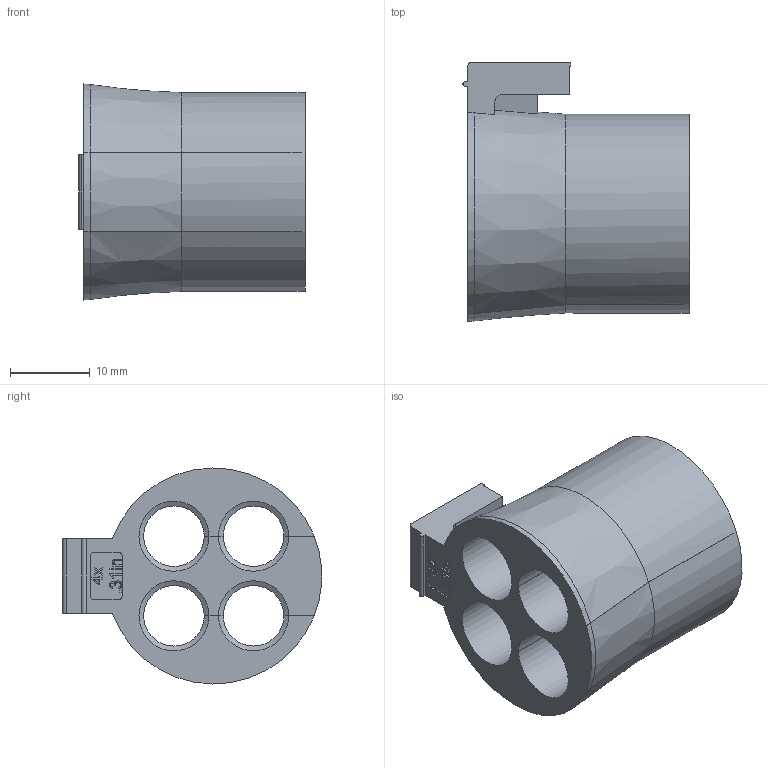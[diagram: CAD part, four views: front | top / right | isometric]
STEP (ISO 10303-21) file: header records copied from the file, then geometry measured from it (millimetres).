
FILE_DESCRIPTION(/* description */ (''),/* implementation_level */ '2;1');
FILE_NAME(/* name */ 'H:\SapWorkDir\Inventor\MP1\ConvertTempPath\87_12_121343_00_A_220525_KDT-X 4x8.stp',/* time_stamp */ '2022-05-30T13:07:22+02:00',/* author */ ('BAUER'),/* organization */ (''),/* preprocessor_version */ 'ST-DEVELOPER v16.13',/* originating_system */ 'Autodesk Inventor 2018',/* authorisation */ '');
FILE_SCHEMA (('AUTOMOTIVE_DESIGN { 1 0 10303 214 3 1 1 }'));
Length unit declared in the file: millimetre
Products named in the file (1): 121343
Bounding box: 28.4 x 32.53 x 27.14 mm (x, y, z)
Volume: 8049.2 mm3; surface area: 6724.2 mm2
Topology: 1 solids, 1 shells, 164 faces, 464 edges, 310 vertices
Faces by surface type: plane 94, cylinder 28, bspline 23, cone 19
Full cylindrical faces by diameter (mm): 25 x1
Entity records: 5431 total; most frequent: CARTESIAN_POINT 1235, ORIENTED_EDGE 924, DIRECTION 768, EDGE_CURVE 462, LINE 336, VECTOR 336, VERTEX_POINT 309, AXIS2_PLACEMENT_3D 216
